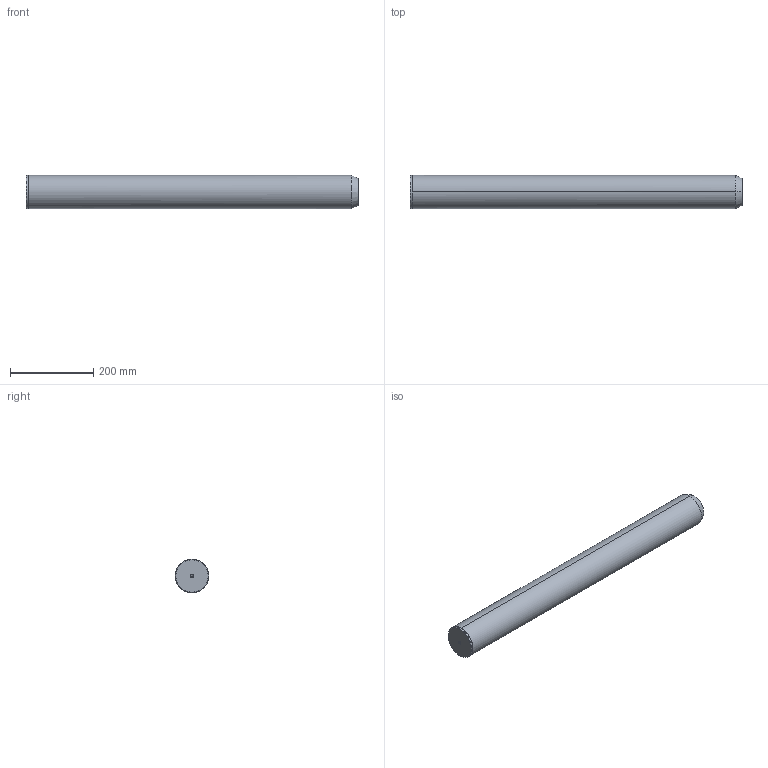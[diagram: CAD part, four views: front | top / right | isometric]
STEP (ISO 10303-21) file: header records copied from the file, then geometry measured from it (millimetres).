
FILE_DESCRIPTION(('CATIA V5 STEP Exchange'),'2;1');
FILE_NAME('C:\Users\Utente\Desktop\IO LAVORO\3D X SITO CF\X SITO\3D files 720\720-80x800.stp','2021-01-01T13:13:40+00:00',('none'),('none'),'CATIA Version 5 Release 20 GA (IN-10)','CATIA V5 STEP AP203','none');
FILE_SCHEMA(('CONFIG_CONTROL_DESIGN'));
Length unit declared in the file: millimetre
Products named in the file (1): 720-80x800
Bounding box: 800 x 80 x 80 mm (x, y, z)
Volume: 4006150.1 mm3; surface area: 209999.8 mm2
Topology: 1 solids, 1 shells, 26 faces, 82 edges, 58 vertices
Faces by surface type: cone 10, cylinder 10, plane 4, bspline 2
Entity records: 1094 total; most frequent: CARTESIAN_POINT 387, ORIENTED_EDGE 156, DIRECTION 104, EDGE_CURVE 78, AXIS2_PLACEMENT_3D 61, VERTEX_POINT 58, CIRCLE 36, EDGE_LOOP 30
